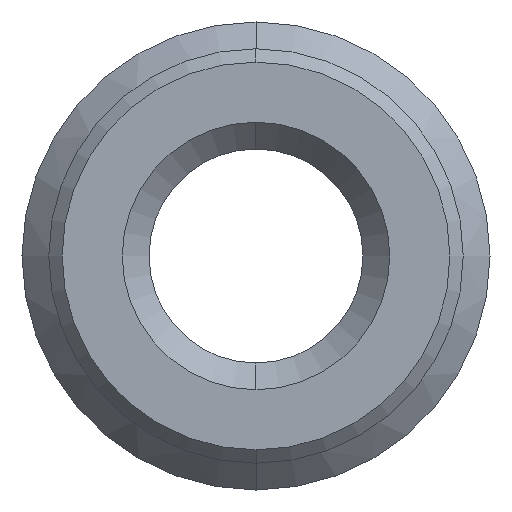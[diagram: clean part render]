
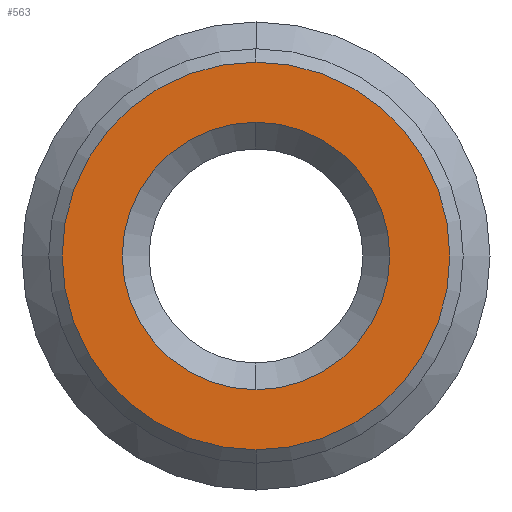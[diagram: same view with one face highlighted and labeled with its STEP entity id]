
A CAD part, left-side view. The second image highlights one B-rep face of the part: STEP entity #563.
In plain terms, the highlighted planar face has unit normal (-1, 0, 0).
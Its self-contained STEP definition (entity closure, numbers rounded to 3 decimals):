
#108 = DIRECTION ( 'NONE',  ( 1., 0., 0. ) ) ;
#229 = VERTEX_POINT ( 'NONE', #775 ) ;
#285 = CARTESIAN_POINT ( 'NONE',  ( -1.95, 0., 1. ) ) ;
#290 = CARTESIAN_POINT ( 'NONE',  ( -1.95, 1.55, 0. ) ) ;
#328 = CIRCLE ( 'NONE', #677, 1. ) ;
#346 = AXIS2_PLACEMENT_3D ( 'NONE', #1279, #992, #897 ) ;
#379 = EDGE_LOOP ( 'NONE', ( #1197, #732 ) ) ;
#397 = FACE_OUTER_BOUND ( 'NONE', #379, .T. ) ;
#471 = DIRECTION ( 'NONE',  ( 1., 0., 0. ) ) ;
#482 = DIRECTION ( 'NONE',  ( 0., 0., 1. ) ) ;
#515 = CARTESIAN_POINT ( 'NONE',  ( -1.95, 0., 0. ) ) ;
#521 = VERTEX_POINT ( 'NONE', #285 ) ;
#563 = ADVANCED_FACE ( 'NONE', ( #1278, #397 ), #761, .F. ) ;
#588 = VERTEX_POINT ( 'NONE', #979 ) ;
#602 = DIRECTION ( 'NONE',  ( 0., 0., -1. ) ) ;
#606 = EDGE_CURVE ( 'NONE', #588, #229, #1234, .T. ) ;
#612 = EDGE_CURVE ( 'NONE', #1148, #521, #1023, .T. ) ;
#617 = CARTESIAN_POINT ( 'NONE',  ( -1.95, 0., 0. ) ) ;
#620 = CARTESIAN_POINT ( 'NONE',  ( -1.95, 0., 0. ) ) ;
#629 = AXIS2_PLACEMENT_3D ( 'NONE', #290, #471, #684 ) ;
#656 = EDGE_CURVE ( 'NONE', #229, #588, #1079, .T. ) ;
#677 = AXIS2_PLACEMENT_3D ( 'NONE', #620, #108, #602 ) ;
#684 = DIRECTION ( 'NONE',  ( 0., 0., 1. ) ) ;
#717 = AXIS2_PLACEMENT_3D ( 'NONE', #515, #1180, #901 ) ;
#723 = EDGE_CURVE ( 'NONE', #521, #1148, #328, .T. ) ;
#732 = ORIENTED_EDGE ( 'NONE', *, *, #656, .F. ) ;
#761 = PLANE ( 'NONE',  #629 ) ;
#768 = DIRECTION ( 'NONE',  ( 1., 0., 0. ) ) ;
#775 = CARTESIAN_POINT ( 'NONE',  ( -1.95, 0., -1.45 ) ) ;
#805 = AXIS2_PLACEMENT_3D ( 'NONE', #617, #768, #482 ) ;
#897 = DIRECTION ( 'NONE',  ( 0., 0., -1. ) ) ;
#901 = DIRECTION ( 'NONE',  ( 0., 0., 1. ) ) ;
#979 = CARTESIAN_POINT ( 'NONE',  ( -1.95, 0., 1.45 ) ) ;
#992 = DIRECTION ( 'NONE',  ( 1., 0., 0. ) ) ;
#1023 = CIRCLE ( 'NONE', #346, 1. ) ;
#1074 = EDGE_LOOP ( 'NONE', ( #1080, #1220 ) ) ;
#1079 = CIRCLE ( 'NONE', #717, 1.45 ) ;
#1080 = ORIENTED_EDGE ( 'NONE', *, *, #723, .T. ) ;
#1091 = CARTESIAN_POINT ( 'NONE',  ( -1.95, 0., -1. ) ) ;
#1148 = VERTEX_POINT ( 'NONE', #1091 ) ;
#1180 = DIRECTION ( 'NONE',  ( 1., 0., 0. ) ) ;
#1197 = ORIENTED_EDGE ( 'NONE', *, *, #606, .F. ) ;
#1220 = ORIENTED_EDGE ( 'NONE', *, *, #612, .T. ) ;
#1234 = CIRCLE ( 'NONE', #805, 1.45 ) ;
#1278 = FACE_BOUND ( 'NONE', #1074, .T. ) ;
#1279 = CARTESIAN_POINT ( 'NONE',  ( -1.95, 0., 0. ) ) ;
